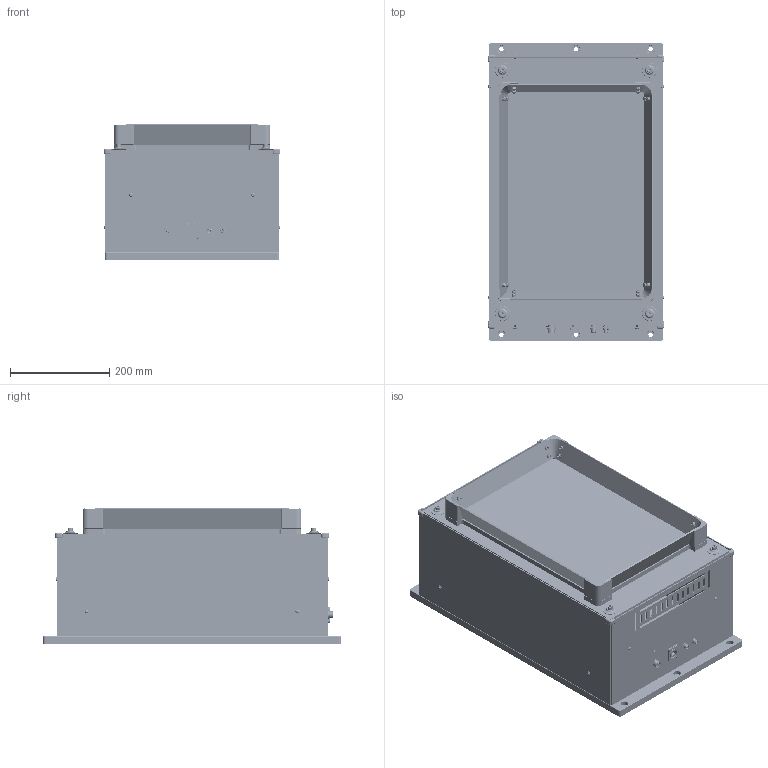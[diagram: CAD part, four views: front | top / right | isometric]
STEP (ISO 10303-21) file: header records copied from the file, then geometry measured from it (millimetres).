
FILE_DESCRIPTION(/* description */ ('STEP AP242','CAx-IF Rec.Pracs.---Representation and Presentation of Product Manufacturing Information (PMI)---4.0---2014-10-13','CAx-IF Rec.Pracs.---3D Tessellated Geometry---0.4---2014-09-14','2;1'),/* implementation_level */ '2;1');
FILE_NAME(/* name */ '6820dd35f2b2ae4ebf79ab62',/* time_stamp */ '2025-05-11T17:24:09Z',/* author */ (''),/* organization */ (''),/* preprocessor_version */ 'ST-DEVELOPER v20',/* originating_system */ 'ONSHAPE BY PTC INC, 1.197',/* authorisation */ ' ');
FILE_SCHEMA (('AP242_MANAGED_MODEL_BASED_3D_ENGINEERING_MIM_LF { 1 0 10303 442 1 1 4 }'));
Products named in the file (29): PartX2 public; 1; Screw M4 x 0.7 x 8_Hex Socket Pan Head; Part 1; Part 2; cerl04F051C8uq0j; SF1212_S4; Part 3
Assembly tree (62 placements, depth 2):
  PartX2 public
    1
    Screw M4 x 0.7 x 8_Hex Socket Pan Head  x8
    Part 1  x2
    Part 1  x16
    Part 1  x4
    Part 1
    Part 1  x4
    Part 1  x4
    Part 1
    Part 1
    Part 1
    Part 1
    Part 1
    Part 1
    Part 1  x3
    Part 1
    Part 1
    Part 1
    Part 2
    Part 1
    Part 1
    Part 1
    cerl04F051C8uq0j
    Part 1
    SF1212_S4
    Part 1
    Part 3
    Part 1
Bounding box: 355 x 600 x 272.99 mm (x, y, z)
Volume: 5648824.5 mm3; surface area: 1839563.8 mm2
Topology: 62 solids, 63 shells, 10241 faces, 23670 edges, 15517 vertices
Faces by surface type: plane 8499, cylinder 970, cone 535, torus 104, bspline 94, sphere 39
Full cylindrical faces by diameter (mm): 0.6 x4, 1 x13, 1.05 x3, 1.2 x4, 1.25 x4, 1.3 x8, 2.5 x16, 3 x1, 3.5 x3, 4 x80, 4.2 x24, 4.3 x20, 4.5 x4, 5 x4, 5.5 x42, 5.6 x3, 5.65 x1, 5.8 x1, 6 x72, 6.5 x7, 6.9 x1, 7.051 x1, 7.2 x1, 7.4 x1, 7.5 x16, 7.6 x8, 8 x3, 8.1 x1, 8.5 x23, 8.7 x1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
Entity records: 74934 total; most frequent: CARTESIAN_POINT 23518, ORIENTED_EDGE 9864, DIRECTION 9637, EDGE_CURVE 4932, AXIS2_PLACEMENT_3D 3869, VERTEX_POINT 3446, FACE_BOUND 3348, EDGE_LOOP 3346
